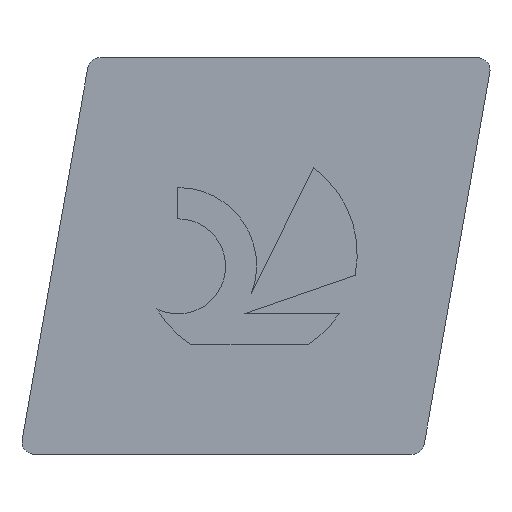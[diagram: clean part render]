
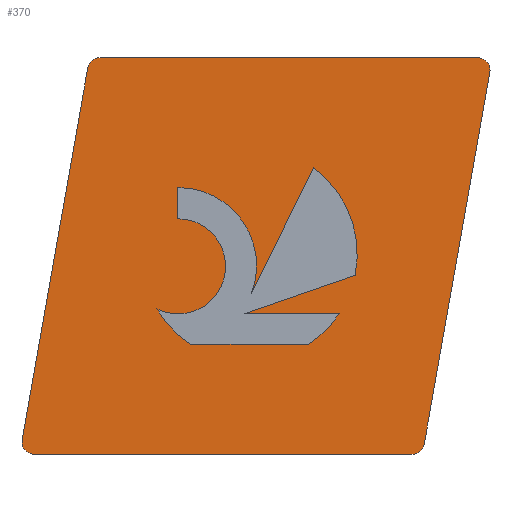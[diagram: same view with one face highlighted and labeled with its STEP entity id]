
A CAD part, top view. The second image highlights one B-rep face of the part: STEP entity #370.
In plain terms, the highlighted planar face has unit normal (0, 0, 1).
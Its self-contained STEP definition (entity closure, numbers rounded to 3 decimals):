
#152=VERTEX_POINT('',#420);
#154=VERTEX_POINT('',#422);
#158=VERTEX_POINT('',#426);
#166=EDGE_CURVE('',#170,#264,#435,.T.);
#170=VERTEX_POINT('',#440);
#172=VERTEX_POINT('',#442);
#196=VERTEX_POINT('',#470);
#204=EDGE_CURVE('',#390,#152,#479,.T.);
#206=EDGE_CURVE('',#364,#330,#481,.T.);
#222=VERTEX_POINT('',#500);
#226=EDGE_CURVE('',#250,#390,#504,.T.);
#242=VERTEX_POINT('',#522);
#244=EDGE_CURVE('',#298,#328,#524,.T.);
#250=VERTEX_POINT('',#532);
#262=VERTEX_POINT('',#547);
#264=VERTEX_POINT('',#549);
#268=EDGE_CURVE('',#154,#298,#553,.T.);
#270=EDGE_CURVE('',#172,#170,#555,.T.);
#272=EDGE_CURVE('',#222,#242,#557,.T.);
#274=EDGE_CURVE('',#330,#172,#559,.T.);
#278=EDGE_CURVE('',#196,#250,#563,.T.);
#284=EDGE_CURVE('',#158,#196,#570,.T.);
#290=VERTEX_POINT('',#577);
#296=EDGE_CURVE('',#396,#340,#584,.T.);
#298=VERTEX_POINT('',#586);
#314=EDGE_CURVE('',#262,#222,#602,.T.);
#326=EDGE_CURVE('',#340,#290,#616,.T.);
#328=VERTEX_POINT('',#618);
#330=VERTEX_POINT('',#620);
#340=VERTEX_POINT('',#630);
#342=EDGE_CURVE('',#328,#158,#632,.T.);
#352=EDGE_CURVE('',#264,#396,#643,.T.);
#354=EDGE_CURVE('',#152,#154,#645,.T.);
#358=EDGE_CURVE('',#290,#262,#649,.T.);
#364=VERTEX_POINT('',#655);
#370=ADVANCED_FACE('',(#661,#662),#663,.T.);
#382=EDGE_CURVE('',#242,#364,#677,.T.);
#390=VERTEX_POINT('',#685);
#396=VERTEX_POINT('',#691);
#420=CARTESIAN_POINT('',(7.329,6.35,0.0));
#422=CARTESIAN_POINT('',(1.287,6.35,0.0));
#426=CARTESIAN_POINT('',(0.238,0.0,0.0));
#435=CIRCLE('',#723,0.761);
#440=CARTESIAN_POINT('',(2.877,3.69,0.0));
#442=CARTESIAN_POINT('',(2.196,2.329,0.0));
#470=CARTESIAN_POINT('',(6.28,0.0,0.0));
#479=CIRCLE('',#780,0.2);
#481=LINE('',#783,#784);
#500=CARTESIAN_POINT('',(3.593,2.25,0.0));
#504=LINE('',#814,#815);
#522=CARTESIAN_POINT('',(5.116,2.25,0.0));
#524=LINE('',#843,#844);
#532=CARTESIAN_POINT('',(6.477,0.165,0.0));
#547=CARTESIAN_POINT('',(5.371,2.868,0.0));
#549=CARTESIAN_POINT('',(2.532,3.77,0.0));
#553=CIRCLE('',#878,0.2);
#555=CIRCLE('',#881,0.761);
#557=LINE('',#884,#885);
#559=CIRCLE('',#888,1.724);
#563=CIRCLE('',#893,0.2);
#570=LINE('',#903,#904);
#577=CARTESIAN_POINT('',(4.707,4.59,0.0));
#584=CIRCLE('',#921,1.252);
#586=CARTESIAN_POINT('',(1.091,6.185,0.0));
#602=LINE('',#953,#954);
#616=LINE('',#975,#976);
#618=CARTESIAN_POINT('',(0.041,0.235,0.0));
#620=CARTESIAN_POINT('',(2.741,1.76,0.0));
#630=CARTESIAN_POINT('',(3.71,2.568,0.0));
#632=CIRCLE('',#996,0.2);
#643=LINE('',#1012,#1013);
#645=LINE('',#1016,#1017);
#649=CIRCLE('',#1022,1.724);
#655=CARTESIAN_POINT('',(4.62,1.76,0.0));
#661=FACE_BOUND('',#1036,.T.);
#662=FACE_OUTER_BOUND('',#1037,.T.);
#663=PLANE('',#1038);
#677=CIRCLE('',#1059,1.724);
#685=CARTESIAN_POINT('',(7.526,6.115,0.0));
#691=CARTESIAN_POINT('',(2.532,4.27,0.0));
#723=AXIS2_PLACEMENT_3D('',#1096,#1097,#1098);
#780=AXIS2_PLACEMENT_3D('',#1157,#1158,#1159);
#783=CARTESIAN_POINT('',(3.263,1.76,0.0));
#784=VECTOR('',#1160,1.0);
#814=CARTESIAN_POINT('',(6.477,0.165,0.0));
#815=VECTOR('',#1188,1.0);
#843=CARTESIAN_POINT('',(1.091,6.185,0.0));
#844=VECTOR('',#1210,1.0);
#878=AXIS2_PLACEMENT_3D('',#1253,#1254,#1255);
#881=AXIS2_PLACEMENT_3D('',#1256,#1257,#1258);
#884=CARTESIAN_POINT('',(4.45,2.25,0.0));
#885=VECTOR('',#1259,1.0);
#888=AXIS2_PLACEMENT_3D('',#1260,#1261,#1262);
#893=AXIS2_PLACEMENT_3D('',#1263,#1264,#1265);
#903=CARTESIAN_POINT('',(0.238,0.0,0.0));
#904=VECTOR('',#1275,1.0);
#921=AXIS2_PLACEMENT_3D('',#1300,#1301,#1302);
#953=CARTESIAN_POINT('',(3.822,2.33,0.0));
#954=VECTOR('',#1312,1.0);
#975=CARTESIAN_POINT('',(4.336,3.838,0.0));
#976=VECTOR('',#1332,1.0);
#996=AXIS2_PLACEMENT_3D('',#1337,#1338,#1339);
#1012=CARTESIAN_POINT('',(2.532,3.723,0.0));
#1013=VECTOR('',#1349,1.0);
#1016=CARTESIAN_POINT('',(7.329,6.35,0.0));
#1017=VECTOR('',#1350,1.0);
#1022=AXIS2_PLACEMENT_3D('',#1351,#1352,#1353);
#1036=EDGE_LOOP('',(#1360,#1361,#1362,#1363,#1364,#1365,#1366,#1367,#1368,#1369,#1370));
#1037=EDGE_LOOP('',(#1371,#1372,#1373,#1374,#1375,#1376,#1377,#1378));
#1038=AXIS2_PLACEMENT_3D('',#1379,#1380,#1381);
#1059=AXIS2_PLACEMENT_3D('',#1400,#1401,#1402);
#1096=CARTESIAN_POINT('',(2.537,3.009,0.0));
#1097=DIRECTION('',(0.0,0.0,1.0));
#1098=DIRECTION('',(-0.447,-0.894,0.0));
#1157=CARTESIAN_POINT('',(7.329,6.15,0.0));
#1158=DIRECTION('',(-0.0,0.0,1.0));
#1159=DIRECTION('',(0.985,-0.174,0.0));
#1160=DIRECTION('',(-1.0,0.0,0.0));
#1188=DIRECTION('',(0.174,0.985,0.0));
#1210=DIRECTION('',(-0.174,-0.985,0.0));
#1253=CARTESIAN_POINT('',(1.287,6.15,0.0));
#1254=DIRECTION('',(0.0,0.0,1.0));
#1255=DIRECTION('',(0.,1.0,0.0));
#1256=CARTESIAN_POINT('',(2.537,3.009,0.0));
#1257=DIRECTION('',(0.0,0.0,1.0));
#1258=DIRECTION('',(-0.447,-0.894,0.0));
#1259=DIRECTION('',(1.0,0.0,0.0));
#1260=CARTESIAN_POINT('',(3.681,3.205,0.0));
#1261=DIRECTION('',(-0.0,0.0,-1.0));
#1262=DIRECTION('',(-0.861,-0.508,0.0));
#1263=CARTESIAN_POINT('',(6.28,0.2,0.0));
#1264=DIRECTION('',(0.0,0.0,1.0));
#1265=DIRECTION('',(0.,-1.0,0.0));
#1275=DIRECTION('',(1.0,0.0,0.0));
#1300=CARTESIAN_POINT('',(2.542,3.018,0.0));
#1301=DIRECTION('',(0.0,-0.0,-1.0));
#1302=DIRECTION('',(0.933,-0.359,0.0));
#1312=DIRECTION('',(-0.945,-0.328,0.0));
#1332=DIRECTION('',(0.442,0.897,-0.0));
#1337=CARTESIAN_POINT('',(0.238,0.2,0.0));
#1338=DIRECTION('',(0.0,0.0,1.0));
#1339=DIRECTION('',(-0.985,0.174,0.0));
#1349=DIRECTION('',(0.0,1.0,0.0));
#1350=DIRECTION('',(-1.0,0.0,0.0));
#1351=CARTESIAN_POINT('',(3.681,3.205,0.0));
#1352=DIRECTION('',(0.0,-0.0,-1.0));
#1353=DIRECTION('',(0.981,-0.196,0.0));
#1360=ORIENTED_EDGE('',*,*,#352,.T.);
#1361=ORIENTED_EDGE('',*,*,#296,.T.);
#1362=ORIENTED_EDGE('',*,*,#326,.T.);
#1363=ORIENTED_EDGE('',*,*,#358,.T.);
#1364=ORIENTED_EDGE('',*,*,#314,.T.);
#1365=ORIENTED_EDGE('',*,*,#272,.T.);
#1366=ORIENTED_EDGE('',*,*,#382,.T.);
#1367=ORIENTED_EDGE('',*,*,#206,.T.);
#1368=ORIENTED_EDGE('',*,*,#274,.T.);
#1369=ORIENTED_EDGE('',*,*,#270,.T.);
#1370=ORIENTED_EDGE('',*,*,#166,.T.);
#1371=ORIENTED_EDGE('',*,*,#284,.T.);
#1372=ORIENTED_EDGE('',*,*,#278,.T.);
#1373=ORIENTED_EDGE('',*,*,#226,.T.);
#1374=ORIENTED_EDGE('',*,*,#204,.T.);
#1375=ORIENTED_EDGE('',*,*,#354,.T.);
#1376=ORIENTED_EDGE('',*,*,#268,.T.);
#1377=ORIENTED_EDGE('',*,*,#244,.T.);
#1378=ORIENTED_EDGE('',*,*,#342,.T.);
#1379=CARTESIAN_POINT('',(3.784,3.175,0.0));
#1380=DIRECTION('',(0.0,0.0,1.0));
#1381=DIRECTION('',(1.0,0.0,0.0));
#1400=CARTESIAN_POINT('',(3.681,3.205,0.0));
#1401=DIRECTION('',(0.0,-0.0,-1.0));
#1402=DIRECTION('',(0.545,-0.838,0.0));
